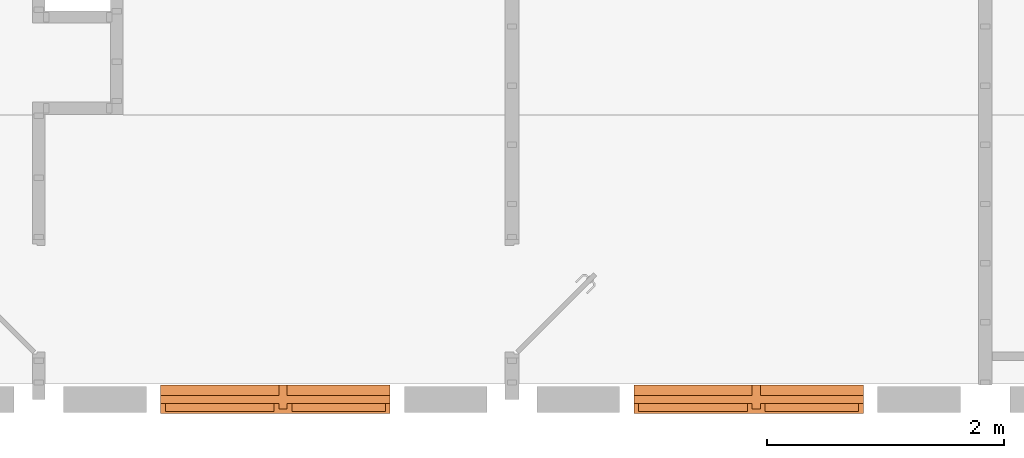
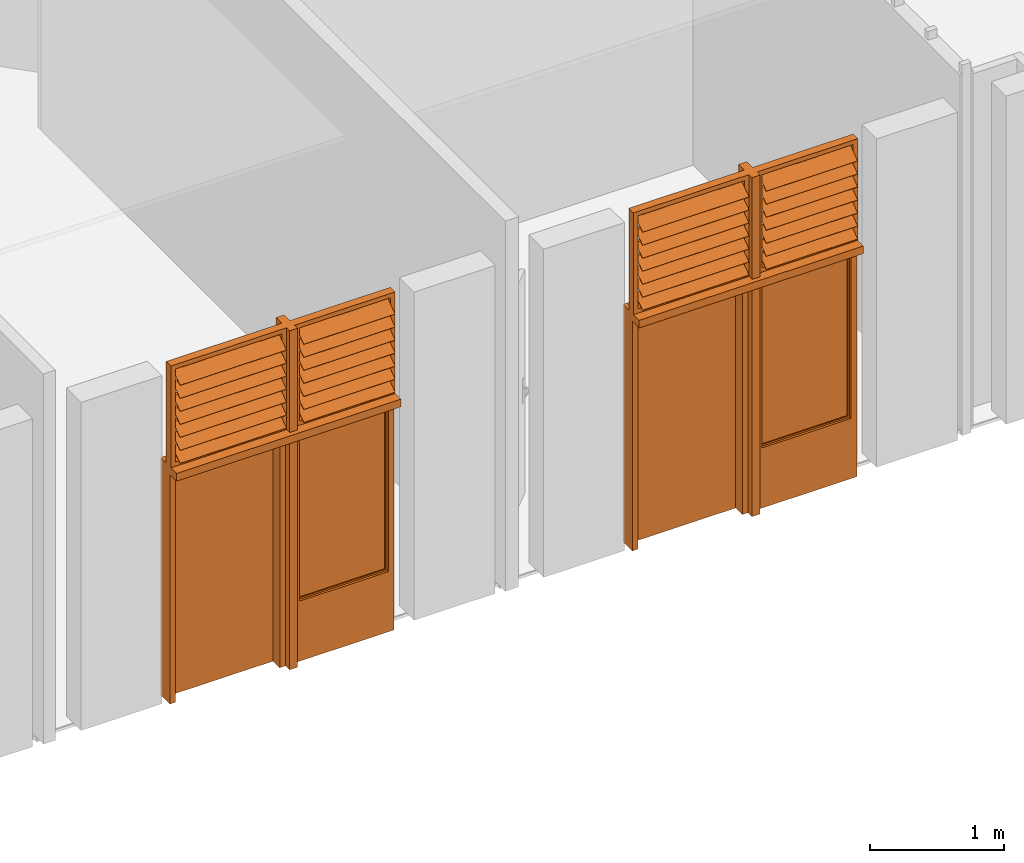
# One storey, part 17 of 20: 2 proxies.
"""IFC2X3 building model written with IfcOpenShell, lengths in metres."""

from ifc_helpers import new_model, entity, si_unit, converted_unit, derived_unit, direction, frame, origin, place, context, subcontext, project, spatial, faceted_brep, source, transform, mapped, material, material_list, type_object, type_shapes, element, save


model = new_model("IFC2X3")

# Units and contexts
model_context = context("Model", 3, precision=1e-05, world=origin(), true_north=direction((6.12303176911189e-17, 1.0)))
body_context = subcontext(model_context, "Body", "Model", "MODEL_VIEW")
ifc_project = project(units=[si_unit("LENGTHUNIT", "METRE"), si_unit("AREAUNIT", "SQUARE_METRE"), si_unit("VOLUMEUNIT", "CUBIC_METRE"), converted_unit("PLANEANGLEUNIT", "DEGREE", entity("IfcRatioMeasure", 0.0174532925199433), si_unit("PLANEANGLEUNIT", "RADIAN"), dimensions=[0, 0, 0, 0, 0, 0, 0]), si_unit("MASSUNIT", "GRAM", prefix="KILO"), derived_unit("MASSDENSITYUNIT", [(si_unit("MASSUNIT", "GRAM", prefix="KILO"), 1), (si_unit("LENGTHUNIT", "METRE"), -3)]), si_unit("TIMEUNIT", "SECOND"), si_unit("FREQUENCYUNIT", "HERTZ"), si_unit("THERMODYNAMICTEMPERATUREUNIT", "DEGREE_CELSIUS"), derived_unit("THERMALTRANSMITTANCEUNIT", [(si_unit("MASSUNIT", "GRAM", prefix="KILO"), 1), (si_unit("THERMODYNAMICTEMPERATUREUNIT", "KELVIN"), -1), (si_unit("TIMEUNIT", "SECOND"), -3)]), derived_unit("VOLUMETRICFLOWRATEUNIT", [(si_unit("LENGTHUNIT", "METRE"), 3), (si_unit("TIMEUNIT", "SECOND"), -1)]), si_unit("ELECTRICCURRENTUNIT", "AMPERE"), si_unit("ELECTRICVOLTAGEUNIT", "VOLT"), si_unit("POWERUNIT", "WATT"), si_unit("FORCEUNIT", "NEWTON", prefix="KILO"), si_unit("ILLUMINANCEUNIT", "LUX"), si_unit("LUMINOUSFLUXUNIT", "LUMEN"), si_unit("LUMINOUSINTENSITYUNIT", "CANDELA"), derived_unit("USERDEFINED", [(si_unit("MASSUNIT", "GRAM", prefix="KILO"), -1), (si_unit("LENGTHUNIT", "METRE"), -2), (si_unit("TIMEUNIT", "SECOND"), 3), (si_unit("LUMINOUSFLUXUNIT", "LUMEN"), 1)]), derived_unit("LINEARVELOCITYUNIT", [(si_unit("LENGTHUNIT", "METRE"), 1), (si_unit("TIMEUNIT", "SECOND"), -1)]), si_unit("PRESSUREUNIT", "PASCAL"), derived_unit("USERDEFINED", [(si_unit("LENGTHUNIT", "METRE"), -2), (si_unit("MASSUNIT", "GRAM", prefix="KILO"), 1), (si_unit("TIMEUNIT", "SECOND"), -2)])], contexts=[model_context])

# Site, building, storey
site_placement = place(None, origin())
site = spatial("IfcSite", under=ifc_project, at=site_placement, Name="Surface", CompositionType="ELEMENT")
building_placement = place(site_placement, origin())
building = spatial("IfcBuilding", under=site, at=building_placement, Name="ExPREF", CompositionType="ELEMENT")
storey_placement = place(building_placement, frame((0.0, 0.0, 4.27)))
storey = spatial("IfcBuildingStorey", under=building, at=storey_placement, Name="R+1", CompositionType="ELEMENT", Elevation=4.27)

# Proxies
ifc_material_1 = material(Name="AA-Aluminium")
ifc_material_2 = material(Name="AA-vitrage")
ifc_material_3 = material(Name="AA-bois menuiseries")
ifc_material_list_1 = material_list([ifc_material_1, ifc_material_2, ifc_material_3])
ifc_material_list_2 = material_list([ifc_material_1, ifc_material_2, ifc_material_3])
building_element_proxy_type = type_object("IfcBuildingElementProxyType", Name="R+2 porte + fenetre", PredefinedType="NOTDEFINED", material=ifc_material_list_2)
shared_shape = source(origin(), body_context, "Body", "Brep", [
    faceted_brep([(0.139999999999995, -0.113917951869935, 3.02140538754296), (0.139999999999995, -0.11833588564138, 3.02771485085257), (0.139999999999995, -0.101483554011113, 3.03951498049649), (0.139999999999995, -0.0970656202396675, 3.03320551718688), (0.930000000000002, -0.113917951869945, 3.02140538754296), (0.930000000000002, -0.0970656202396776, 3.03320551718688), (0.930000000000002, -0.101483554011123, 3.03951498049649), (0.930000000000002, -0.118335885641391, 3.02771485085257)], [[[0, 1, 2, 3]], [[4, 5, 6, 7]], [[3, 5, 4, 0]], [[2, 6, 5, 3]], [[1, 7, 6, 2]], [[0, 4, 7, 1]]]),
    faceted_brep([(0.139999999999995, -0.114720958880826, 3.02255220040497), (0.139999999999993, -0.220741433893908, 2.94831586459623), (0.139999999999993, -0.223609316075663, 2.95241162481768), (0.139999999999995, -0.117588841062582, 3.02664796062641), (0.930000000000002, -0.114720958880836, 3.02255220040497), (0.930000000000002, -0.117588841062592, 3.02664796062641), (0.93, -0.223609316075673, 2.95241162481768), (0.93, -0.220741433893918, 2.94831586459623)], [[[0, 1, 2, 3]], [[4, 5, 6, 7]], [[3, 5, 4, 0]], [[2, 6, 5, 3]], [[1, 7, 6, 2]], [[0, 4, 7, 1]]]),
    faceted_brep([(-0.930000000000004, -0.113917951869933, 3.02140538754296), (-0.930000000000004, -0.118335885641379, 3.02771485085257), (-0.930000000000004, -0.101483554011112, 3.03951498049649), (-0.930000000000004, -0.097065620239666, 3.03320551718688), (-0.00999999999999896, -0.113917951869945, 3.02140538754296), (-0.00999999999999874, -0.0970656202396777, 3.03320551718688), (-0.0099999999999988, -0.101483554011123, 3.03951498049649), (-0.00999999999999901, -0.118335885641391, 3.02771485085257)], [[[0, 1, 2, 3]], [[4, 5, 6, 7]], [[3, 5, 4, 0]], [[2, 6, 5, 3]], [[1, 7, 6, 2]], [[0, 4, 7, 1]]]),
    faceted_brep([(-0.930000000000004, -0.114720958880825, 3.02255220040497), (-0.930000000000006, -0.220741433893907, 2.94831586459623), (-0.930000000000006, -0.223609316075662, 2.95241162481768), (-0.930000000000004, -0.11758884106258, 3.02664796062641), (-0.00999999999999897, -0.114720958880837, 3.02255220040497), (-0.009999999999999, -0.117588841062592, 3.02664796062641), (-0.0100000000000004, -0.223609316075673, 2.95241162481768), (-0.0100000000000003, -0.220741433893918, 2.94831586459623)], [[[0, 1, 2, 3]], [[4, 5, 6, 7]], [[3, 5, 4, 0]], [[2, 6, 5, 3]], [[1, 7, 6, 2]], [[0, 4, 7, 1]]]),
    faceted_brep([(0.139999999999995, -0.113917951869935, 2.90240538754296), (0.139999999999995, -0.11833588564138, 2.90871485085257), (0.139999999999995, -0.101483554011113, 2.92051498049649), (0.139999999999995, -0.0970656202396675, 2.91420551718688), (0.930000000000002, -0.113917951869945, 2.90240538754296), (0.930000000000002, -0.0970656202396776, 2.91420551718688), (0.930000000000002, -0.101483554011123, 2.92051498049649), (0.930000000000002, -0.118335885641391, 2.90871485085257)], [[[0, 1, 2, 3]], [[4, 5, 6, 7]], [[3, 5, 4, 0]], [[2, 6, 5, 3]], [[1, 7, 6, 2]], [[0, 4, 7, 1]]]),
    faceted_brep([(0.139999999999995, -0.114720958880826, 2.90355220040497), (0.139999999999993, -0.220741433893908, 2.82931586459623), (0.139999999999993, -0.223609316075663, 2.83341162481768), (0.139999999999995, -0.117588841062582, 2.90764796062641), (0.930000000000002, -0.114720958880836, 2.90355220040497), (0.930000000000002, -0.117588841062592, 2.90764796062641), (0.93, -0.223609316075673, 2.83341162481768), (0.93, -0.220741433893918, 2.82931586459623)], [[[0, 1, 2, 3]], [[4, 5, 6, 7]], [[3, 5, 4, 0]], [[2, 6, 5, 3]], [[1, 7, 6, 2]], [[0, 4, 7, 1]]]),
    faceted_brep([(-0.930000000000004, -0.113917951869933, 2.90240538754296), (-0.930000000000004, -0.118335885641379, 2.90871485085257), (-0.930000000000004, -0.101483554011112, 2.92051498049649), (-0.930000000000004, -0.097065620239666, 2.91420551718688), (-0.00999999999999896, -0.113917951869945, 2.90240538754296), (-0.00999999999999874, -0.0970656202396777, 2.91420551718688), (-0.0099999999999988, -0.101483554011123, 2.92051498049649), (-0.00999999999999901, -0.118335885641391, 2.90871485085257)], [[[0, 1, 2, 3]], [[4, 5, 6, 7]], [[3, 5, 4, 0]], [[2, 6, 5, 3]], [[1, 7, 6, 2]], [[0, 4, 7, 1]]]),
    faceted_brep([(-0.930000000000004, -0.114720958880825, 2.90355220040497), (-0.930000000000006, -0.220741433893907, 2.82931586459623), (-0.930000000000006, -0.223609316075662, 2.83341162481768), (-0.930000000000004, -0.11758884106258, 2.90764796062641), (-0.00999999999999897, -0.114720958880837, 2.90355220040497), (-0.009999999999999, -0.117588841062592, 2.90764796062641), (-0.0100000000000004, -0.223609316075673, 2.83341162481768), (-0.0100000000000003, -0.220741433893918, 2.82931586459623)], [[[0, 1, 2, 3]], [[4, 5, 6, 7]], [[3, 5, 4, 0]], [[2, 6, 5, 3]], [[1, 7, 6, 2]], [[0, 4, 7, 1]]]),
    faceted_brep([(0.139999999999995, -0.113917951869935, 2.78340538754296), (0.139999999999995, -0.11833588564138, 2.78971485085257), (0.139999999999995, -0.101483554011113, 2.80151498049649), (0.139999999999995, -0.0970656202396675, 2.79520551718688), (0.930000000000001, -0.113917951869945, 2.78340538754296), (0.930000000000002, -0.0970656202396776, 2.79520551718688), (0.930000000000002, -0.101483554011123, 2.80151498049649), (0.930000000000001, -0.118335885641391, 2.78971485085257)], [[[0, 1, 2, 3]], [[4, 5, 6, 7]], [[3, 5, 4, 0]], [[2, 6, 5, 3]], [[1, 7, 6, 2]], [[0, 4, 7, 1]]]),
    faceted_brep([(0.139999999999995, -0.114720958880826, 2.78455220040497), (0.139999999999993, -0.220741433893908, 2.71031586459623), (0.139999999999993, -0.223609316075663, 2.71441162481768), (0.139999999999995, -0.117588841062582, 2.78864796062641), (0.930000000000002, -0.114720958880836, 2.78455220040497), (0.930000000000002, -0.117588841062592, 2.78864796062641), (0.93, -0.223609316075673, 2.71441162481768), (0.93, -0.220741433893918, 2.71031586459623)], [[[0, 1, 2, 3]], [[4, 5, 6, 7]], [[3, 5, 4, 0]], [[2, 6, 5, 3]], [[1, 7, 6, 2]], [[0, 4, 7, 1]]]),
    faceted_brep([(-0.930000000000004, -0.113917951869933, 2.78340538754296), (-0.930000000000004, -0.118335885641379, 2.78971485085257), (-0.930000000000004, -0.101483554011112, 2.80151498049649), (-0.930000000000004, -0.097065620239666, 2.79520551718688), (-0.00999999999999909, -0.113917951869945, 2.78340538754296), (-0.00999999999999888, -0.0970656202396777, 2.79520551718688), (-0.00999999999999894, -0.101483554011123, 2.80151498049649), (-0.00999999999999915, -0.118335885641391, 2.78971485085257)], [[[0, 1, 2, 3]], [[4, 5, 6, 7]], [[3, 5, 4, 0]], [[2, 6, 5, 3]], [[1, 7, 6, 2]], [[0, 4, 7, 1]]]),
    faceted_brep([(-0.930000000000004, -0.114720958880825, 2.78455220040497), (-0.930000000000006, -0.220741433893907, 2.71031586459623), (-0.930000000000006, -0.223609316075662, 2.71441162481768), (-0.930000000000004, -0.11758884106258, 2.78864796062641), (-0.0099999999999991, -0.114720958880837, 2.78455220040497), (-0.00999999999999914, -0.117588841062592, 2.78864796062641), (-0.0100000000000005, -0.223609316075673, 2.71441162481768), (-0.0100000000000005, -0.220741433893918, 2.71031586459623)], [[[0, 1, 2, 3]], [[4, 5, 6, 7]], [[3, 5, 4, 0]], [[2, 6, 5, 3]], [[1, 7, 6, 2]], [[0, 4, 7, 1]]]),
    faceted_brep([(-0.930000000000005, -0.113917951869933, 2.66440538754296), (-0.930000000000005, -0.118335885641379, 2.67071485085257), (-0.930000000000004, -0.101483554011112, 2.68251498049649), (-0.930000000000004, -0.097065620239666, 2.67620551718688), (-0.00999999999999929, -0.113917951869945, 2.66440538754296), (-0.00999999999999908, -0.0970656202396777, 2.67620551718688), (-0.00999999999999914, -0.101483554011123, 2.68251498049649), (-0.00999999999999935, -0.118335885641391, 2.67071485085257)], [[[0, 1, 2, 3]], [[4, 5, 6, 7]], [[3, 5, 4, 0]], [[2, 6, 5, 3]], [[1, 7, 6, 2]], [[0, 4, 7, 1]]]),
    faceted_brep([(-0.930000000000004, -0.114720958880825, 2.66555220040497), (-0.930000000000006, -0.220741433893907, 2.59131586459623), (-0.930000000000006, -0.223609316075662, 2.59541162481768), (-0.930000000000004, -0.11758884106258, 2.66964796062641), (-0.0099999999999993, -0.114720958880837, 2.66555220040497), (-0.00999999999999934, -0.117588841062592, 2.66964796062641), (-0.0100000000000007, -0.223609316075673, 2.59541162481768), (-0.0100000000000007, -0.220741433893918, 2.59131586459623)], [[[0, 1, 2, 3]], [[4, 5, 6, 7]], [[3, 5, 4, 0]], [[2, 6, 5, 3]], [[1, 7, 6, 2]], [[0, 4, 7, 1]]]),
    faceted_brep([(-0.930000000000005, -0.113917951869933, 2.54540538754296), (-0.930000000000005, -0.118335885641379, 2.55171485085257), (-0.930000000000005, -0.101483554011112, 2.56351498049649), (-0.930000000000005, -0.097065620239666, 2.55720551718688), (-0.0099999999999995, -0.113917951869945, 2.54540538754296), (-0.00999999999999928, -0.0970656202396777, 2.55720551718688), (-0.00999999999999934, -0.101483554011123, 2.56351498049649), (-0.00999999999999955, -0.118335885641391, 2.55171485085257)], [[[0, 1, 2, 3]], [[4, 5, 6, 7]], [[3, 5, 4, 0]], [[2, 6, 5, 3]], [[1, 7, 6, 2]], [[0, 4, 7, 1]]]),
    faceted_brep([(-0.930000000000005, -0.114720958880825, 2.54655220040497), (-0.930000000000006, -0.220741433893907, 2.47231586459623), (-0.930000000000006, -0.223609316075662, 2.47641162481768), (-0.930000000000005, -0.11758884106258, 2.55064796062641), (-0.00999999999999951, -0.114720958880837, 2.54655220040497), (-0.00999999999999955, -0.117588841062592, 2.55064796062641), (-0.0100000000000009, -0.223609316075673, 2.47641162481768), (-0.0100000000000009, -0.220741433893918, 2.47231586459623)], [[[0, 1, 2, 3]], [[4, 5, 6, 7]], [[3, 5, 4, 0]], [[2, 6, 5, 3]], [[1, 7, 6, 2]], [[0, 4, 7, 1]]]),
    faceted_brep([(0.139999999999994, -0.113917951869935, 2.66440538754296), (0.139999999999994, -0.11833588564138, 2.67071485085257), (0.139999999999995, -0.101483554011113, 2.68251498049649), (0.139999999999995, -0.0970656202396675, 2.67620551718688), (0.930000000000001, -0.113917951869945, 2.66440538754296), (0.930000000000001, -0.0970656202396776, 2.67620551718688), (0.930000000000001, -0.101483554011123, 2.68251498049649), (0.930000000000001, -0.118335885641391, 2.67071485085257)], [[[0, 1, 2, 3]], [[4, 5, 6, 7]], [[3, 5, 4, 0]], [[2, 6, 5, 3]], [[1, 7, 6, 2]], [[0, 4, 7, 1]]]),
    faceted_brep([(0.139999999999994, -0.114720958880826, 2.66555220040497), (0.139999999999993, -0.220741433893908, 2.59131586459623), (0.139999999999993, -0.223609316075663, 2.59541162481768), (0.139999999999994, -0.117588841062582, 2.66964796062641), (0.930000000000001, -0.114720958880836, 2.66555220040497), (0.930000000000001, -0.117588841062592, 2.66964796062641), (0.93, -0.223609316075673, 2.59541162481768), (0.93, -0.220741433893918, 2.59131586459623)], [[[0, 1, 2, 3]], [[4, 5, 6, 7]], [[3, 5, 4, 0]], [[2, 6, 5, 3]], [[1, 7, 6, 2]], [[0, 4, 7, 1]]]),
    faceted_brep([(0.139999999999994, -0.113917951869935, 2.54540538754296), (0.139999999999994, -0.11833588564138, 2.55171485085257), (0.139999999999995, -0.101483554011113, 2.56351498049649), (0.139999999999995, -0.0970656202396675, 2.55720551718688), (0.930000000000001, -0.113917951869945, 2.54540538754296), (0.930000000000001, -0.0970656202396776, 2.55720551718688), (0.930000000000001, -0.101483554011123, 2.56351498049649), (0.930000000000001, -0.118335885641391, 2.55171485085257)], [[[0, 1, 2, 3]], [[4, 5, 6, 7]], [[3, 5, 4, 0]], [[2, 6, 5, 3]], [[1, 7, 6, 2]], [[0, 4, 7, 1]]]),
    faceted_brep([(0.139999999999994, -0.114720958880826, 2.54655220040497), (0.139999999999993, -0.220741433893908, 2.47231586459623), (0.139999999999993, -0.223609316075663, 2.47641162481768), (0.139999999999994, -0.117588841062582, 2.55064796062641), (0.930000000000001, -0.114720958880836, 2.54655220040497), (0.930000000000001, -0.117588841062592, 2.55064796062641), (0.93, -0.223609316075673, 2.47641162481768), (0.93, -0.220741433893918, 2.47231586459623)], [[[0, 1, 2, 3]], [[4, 5, 6, 7]], [[3, 5, 4, 0]], [[2, 6, 5, 3]], [[1, 7, 6, 2]], [[0, 4, 7, 1]]]),
    faceted_brep([(0.139999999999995, -0.113917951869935, 2.42640538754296), (0.139999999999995, -0.11833588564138, 2.43271485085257), (0.139999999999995, -0.101483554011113, 2.44451498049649), (0.139999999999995, -0.0970656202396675, 2.43820551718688), (0.930000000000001, -0.113917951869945, 2.42640538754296), (0.930000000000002, -0.0970656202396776, 2.43820551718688), (0.930000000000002, -0.101483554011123, 2.44451498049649), (0.930000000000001, -0.118335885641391, 2.43271485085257)], [[[0, 1, 2, 3]], [[4, 5, 6, 7]], [[3, 5, 4, 0]], [[2, 6, 5, 3]], [[1, 7, 6, 2]], [[0, 4, 7, 1]]]),
    faceted_brep([(0.139999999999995, -0.114720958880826, 2.42755220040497), (0.139999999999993, -0.220741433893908, 2.35331586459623), (0.139999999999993, -0.223609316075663, 2.35741162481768), (0.139999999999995, -0.117588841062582, 2.43164796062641), (0.930000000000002, -0.114720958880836, 2.42755220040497), (0.930000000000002, -0.117588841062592, 2.43164796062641), (0.93, -0.223609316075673, 2.35741162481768), (0.93, -0.220741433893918, 2.35331586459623)], [[[0, 1, 2, 3]], [[4, 5, 6, 7]], [[3, 5, 4, 0]], [[2, 6, 5, 3]], [[1, 7, 6, 2]], [[0, 4, 7, 1]]]),
    faceted_brep([(0.139999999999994, -0.113917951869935, 2.30740538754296), (0.139999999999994, -0.11833588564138, 2.31371485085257), (0.139999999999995, -0.101483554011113, 2.32551498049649), (0.139999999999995, -0.0970656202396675, 2.31920551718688), (0.930000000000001, -0.113917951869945, 2.30740538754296), (0.930000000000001, -0.0970656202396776, 2.31920551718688), (0.930000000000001, -0.101483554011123, 2.32551498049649), (0.930000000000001, -0.118335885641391, 2.31371485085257)], [[[0, 1, 2, 3]], [[4, 5, 6, 7]], [[3, 5, 4, 0]], [[2, 6, 5, 3]], [[1, 7, 6, 2]], [[0, 4, 7, 1]]]),
    faceted_brep([(0.139999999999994, -0.114720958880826, 2.30855220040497), (0.139999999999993, -0.220741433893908, 2.23431586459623), (0.139999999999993, -0.223609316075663, 2.23841162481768), (0.139999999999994, -0.117588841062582, 2.31264796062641), (0.930000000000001, -0.114720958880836, 2.30855220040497), (0.930000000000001, -0.117588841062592, 2.31264796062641), (0.93, -0.223609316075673, 2.23841162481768), (0.93, -0.220741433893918, 2.23431586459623)], [[[0, 1, 2, 3]], [[4, 5, 6, 7]], [[3, 5, 4, 0]], [[2, 6, 5, 3]], [[1, 7, 6, 2]], [[0, 4, 7, 1]]]),
    faceted_brep([(-0.930000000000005, -0.113917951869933, 2.42640538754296), (-0.930000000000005, -0.118335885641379, 2.43271485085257), (-0.930000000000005, -0.101483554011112, 2.44451498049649), (-0.930000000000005, -0.097065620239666, 2.43820551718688), (-0.0099999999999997, -0.113917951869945, 2.42640538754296), (-0.00999999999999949, -0.0970656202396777, 2.43820551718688), (-0.00999999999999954, -0.101483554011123, 2.44451498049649), (-0.00999999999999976, -0.118335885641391, 2.43271485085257)], [[[0, 1, 2, 3]], [[4, 5, 6, 7]], [[3, 5, 4, 0]], [[2, 6, 5, 3]], [[1, 7, 6, 2]], [[0, 4, 7, 1]]]),
    faceted_brep([(-0.930000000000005, -0.114720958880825, 2.42755220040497), (-0.930000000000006, -0.220741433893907, 2.35331586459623), (-0.930000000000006, -0.223609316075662, 2.35741162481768), (-0.930000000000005, -0.11758884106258, 2.43164796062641), (-0.00999999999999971, -0.114720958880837, 2.42755220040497), (-0.00999999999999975, -0.117588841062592, 2.43164796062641), (-0.0100000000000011, -0.223609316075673, 2.35741162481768), (-0.0100000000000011, -0.220741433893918, 2.35331586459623)], [[[0, 1, 2, 3]], [[4, 5, 6, 7]], [[3, 5, 4, 0]], [[2, 6, 5, 3]], [[1, 7, 6, 2]], [[0, 4, 7, 1]]]),
    faceted_brep([(-0.930000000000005, -0.113917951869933, 2.30740538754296), (-0.930000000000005, -0.118335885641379, 2.31371485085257), (-0.930000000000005, -0.101483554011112, 2.32551498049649), (-0.930000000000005, -0.097065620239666, 2.31920551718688), (-0.0099999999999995, -0.113917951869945, 2.30740538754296), (-0.00999999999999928, -0.0970656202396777, 2.31920551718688), (-0.00999999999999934, -0.101483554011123, 2.32551498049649), (-0.00999999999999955, -0.118335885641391, 2.31371485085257)], [[[0, 1, 2, 3]], [[4, 5, 6, 7]], [[3, 5, 4, 0]], [[2, 6, 5, 3]], [[1, 7, 6, 2]], [[0, 4, 7, 1]]]),
    faceted_brep([(-0.930000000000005, -0.114720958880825, 2.30855220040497), (-0.930000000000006, -0.220741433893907, 2.23431586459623), (-0.930000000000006, -0.223609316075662, 2.23841162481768), (-0.930000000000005, -0.11758884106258, 2.31264796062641), (-0.00999999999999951, -0.114720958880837, 2.30855220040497), (-0.00999999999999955, -0.117588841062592, 2.31264796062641), (-0.0100000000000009, -0.223609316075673, 2.23841162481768), (-0.0100000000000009, -0.220741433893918, 2.23431586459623)], [[[0, 1, 2, 3]], [[4, 5, 6, 7]], [[3, 5, 4, 0]], [[2, 6, 5, 3]], [[1, 7, 6, 2]], [[0, 4, 7, 1]]]),
    faceted_brep([(0.904999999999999, -0.0900000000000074, 2.03499999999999), (0.904999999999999, -0.0900000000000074, 0.564999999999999), (0.164999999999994, -0.0900000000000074, 0.564999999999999), (0.164999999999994, -0.0900000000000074, 2.03499999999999), (0.904999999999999, -0.110000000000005, 2.03499999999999), (0.164999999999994, -0.110000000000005, 2.03499999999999), (0.164999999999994, -0.110000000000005, 0.564999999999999), (0.904999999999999, -0.110000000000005, 0.564999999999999)], [[[0, 1, 2, 3]], [[4, 5, 6, 7]], [[0, 3, 5, 4]], [[3, 2, 6, 5]], [[2, 1, 7, 6]], [[1, 0, 4, 7]]]),
    faceted_brep([(0.934999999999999, -0.0800000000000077, 2.065), (0.934999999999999, -0.120000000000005, 2.065), (0.934999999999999, -0.120000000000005, 0.534999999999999), (0.934999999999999, -0.0800000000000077, 0.534999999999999), (0.904999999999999, -0.120000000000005, 2.03499999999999), (0.904999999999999, -0.0800000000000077, 2.03499999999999), (0.904999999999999, -0.0800000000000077, 0.564999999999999), (0.904999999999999, -0.120000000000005, 0.564999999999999), (0.134999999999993, -0.120000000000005, 0.534999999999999), (0.134999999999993, -0.0800000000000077, 0.534999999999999), (0.164999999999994, -0.0800000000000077, 0.564999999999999), (0.164999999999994, -0.120000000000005, 0.564999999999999), (0.134999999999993, -0.120000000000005, 2.065), (0.134999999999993, -0.0800000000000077, 2.065), (0.164999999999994, -0.0800000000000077, 2.03499999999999), (0.164999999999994, -0.120000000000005, 2.03499999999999)], [[[0, 1, 2, 3]], [[4, 5, 6, 7]], [[3, 2, 8, 9]], [[7, 6, 10, 11]], [[9, 8, 12, 13]], [[11, 10, 14, 15]], [[7, 11, 15, 4], [1, 12, 8, 2]], [[13, 12, 1, 0]], [[3, 9, 13, 0], [5, 14, 10, 6]], [[15, 14, 5, 4]]], outer=[[True], [True], [True], [True], [True], [True], [False, True], [True], [True, False], [True]]),
    faceted_brep([(0.969999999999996, -0.140000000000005, 0.500000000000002), (0.969999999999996, -0.080000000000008, 0.500000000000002), (0.969999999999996, -0.080000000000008, 2.09999999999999), (0.969999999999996, -0.140000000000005, 2.09999999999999), (0.919999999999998, -0.120000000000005, 0.549999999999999), (0.919999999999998, -0.140000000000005, 0.549999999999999), (0.919999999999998, -0.140000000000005, 2.05), (0.919999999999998, -0.120000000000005, 2.05), (0.934999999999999, -0.0800000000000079, 0.534999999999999), (0.934999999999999, -0.120000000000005, 0.534999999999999), (0.934999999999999, -0.120000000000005, 2.065), (0.934999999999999, -0.0800000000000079, 2.065), (0.0999999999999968, -0.080000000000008, 2.09999999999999), (0.099999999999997, -0.140000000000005, 2.09999999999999), (0.149999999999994, -0.140000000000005, 2.04999999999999), (0.149999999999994, -0.120000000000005, 2.05), (0.134999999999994, -0.120000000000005, 2.065), (0.134999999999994, -0.0800000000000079, 2.065), (0.0999999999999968, -0.080000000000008, 0.500000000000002), (0.099999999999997, -0.140000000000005, 0.500000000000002), (0.149999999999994, -0.140000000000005, 0.549999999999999), (0.149999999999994, -0.120000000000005, 0.549999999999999), (0.134999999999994, -0.120000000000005, 0.534999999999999), (0.134999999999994, -0.0800000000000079, 0.534999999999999)], [[[0, 1, 2, 3]], [[4, 5, 6, 7]], [[8, 9, 10, 11]], [[3, 2, 12, 13]], [[7, 6, 14, 15]], [[11, 10, 16, 17]], [[13, 12, 18, 19]], [[15, 14, 20, 21]], [[17, 16, 22, 23]], [[11, 17, 23, 8], [1, 18, 12, 2]], [[19, 18, 1, 0]], [[3, 13, 19, 0], [5, 20, 14, 6]], [[21, 20, 5, 4]], [[7, 15, 21, 4], [9, 22, 16, 10]], [[23, 22, 9, 8]]], outer=[[True], [True], [True], [True], [True], [True], [True], [True], [True], [False, True], [True], [True, False], [True], [False, True], [True]]),
    faceted_brep([(-0.97, -0.155, 2.17), (0.0299999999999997, -0.155, 2.17), (0.0299999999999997, -0.155, 3.10000000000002), (-0.97, -0.155, 3.10000000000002), (-0.930000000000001, -0.155, 2.21), (-0.930000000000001, -0.155, 3.06000000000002), (-0.0100000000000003, -0.155, 3.06000000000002), (-0.0100000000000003, -0.155, 2.21), (-0.930000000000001, -0.085000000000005, 2.21), (-0.0100000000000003, -0.085000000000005, 2.21), (-0.0100000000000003, -0.085000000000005, 3.06000000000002), (-0.930000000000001, -0.085000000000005, 3.06000000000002), (-0.97, -0.085000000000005, 2.17), (-0.97, -0.085000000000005, 3.10000000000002), (0.0299999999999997, -0.085000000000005, 3.10000000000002), (0.0299999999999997, -0.085000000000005, 2.17)], [[[0, 1, 2, 3], [4, 5, 6, 7]], [[8, 9, 10, 11], [12, 13, 14, 15]], [[1, 0, 12, 15]], [[4, 7, 9, 8]], [[0, 3, 13, 12]], [[5, 4, 8, 11]], [[2, 1, 15, 14]], [[7, 6, 10, 9]], [[3, 2, 14, 13]], [[6, 5, 11, 10]]], outer=[[True, False], [False, True], [True], [True], [True], [True], [True], [True], [True], [True]]),
    faceted_brep([(0.0999999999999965, -0.155, 2.16999999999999), (0.970000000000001, -0.155, 2.16999999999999), (0.970000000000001, -0.155, 3.10000000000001), (0.0999999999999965, -0.155, 3.10000000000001), (0.139999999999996, -0.155, 2.20999999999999), (0.139999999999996, -0.155, 3.06000000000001), (0.930000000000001, -0.155, 3.06000000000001), (0.930000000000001, -0.155, 2.20999999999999), (0.139999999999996, -0.085000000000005, 2.20999999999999), (0.930000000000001, -0.085000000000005, 2.20999999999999), (0.930000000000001, -0.085000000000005, 3.06000000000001), (0.139999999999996, -0.085000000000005, 3.06000000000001), (0.0999999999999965, -0.085000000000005, 2.16999999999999), (0.0999999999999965, -0.085000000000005, 3.10000000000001), (0.970000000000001, -0.085000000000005, 3.10000000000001), (0.970000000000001, -0.085000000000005, 2.16999999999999)], [[[0, 1, 2, 3], [4, 5, 6, 7]], [[8, 9, 10, 11], [12, 13, 14, 15]], [[1, 0, 12, 15]], [[2, 1, 15, 14]], [[7, 6, 10, 9]], [[4, 7, 9, 8]], [[0, 3, 13, 12]], [[5, 4, 8, 11]], [[3, 2, 14, 13]], [[6, 5, 11, 10]]], outer=[[True, False], [False, True], [True], [True], [True], [True], [True], [True], [True], [True]]),
    faceted_brep([(0.0999999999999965, -0.2, 3.10000000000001), (0.0299999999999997, -0.2, 3.10000000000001), (0.0299999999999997, -0.2, 2.17), (0.0999999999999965, -0.2, 2.17), (0.0999999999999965, 0.0, 3.10000000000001), (0.0299999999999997, 0.0, 3.10000000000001), (0.0999999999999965, 0.0, 2.17), (0.0299999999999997, 0.0, 2.17)], [[[0, 1, 2, 3]], [[1, 0, 4, 5]], [[0, 3, 6, 4]], [[2, 1, 5, 7]], [[3, 2, 7, 6]], [[4, 6, 7, 5]]]),
    faceted_brep([(0.0299999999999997, 0.0, 2.1), (0.0999999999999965, 0.0, 2.1), (0.0999999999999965, 0.0, 0.0), (0.0299999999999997, 0.0, 0.0), (0.0299999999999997, -0.2, 0.0), (0.0299999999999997, -0.2, 2.1), (0.0999999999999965, -0.2, 0.0), (0.0999999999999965, -0.2, 2.1)], [[[0, 1, 2, 3]], [[4, 5, 0, 3]], [[6, 4, 3, 2]], [[7, 6, 2, 1]], [[5, 7, 1, 0]], [[5, 4, 6, 7]]]),
    faceted_brep([(-0.0050000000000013, 0.0, 2.065), (-0.935000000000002, 0.0, 2.065), (-0.935000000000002, -0.0400000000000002, 2.065), (-0.0050000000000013, -0.0400000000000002, 2.065), (-0.0050000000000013, 0.0, 0.0), (-0.0050000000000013, -0.0400000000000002, 0.0), (-0.935000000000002, -0.0400000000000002, 0.0), (-0.935000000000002, 0.0, 0.0)], [[[0, 1, 2, 3]], [[4, 5, 6, 7]], [[1, 0, 4, 7]], [[2, 1, 7, 6]], [[3, 2, 6, 5]], [[0, 3, 5, 4]]]),
    faceted_brep([(-0.970000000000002, -0.14, 0.0), (-0.970000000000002, 0.0, 0.0), (-0.935000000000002, 0.0, 0.0), (-0.935000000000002, -0.0400000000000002, 0.0), (-0.920000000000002, -0.0400000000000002, 0.0), (-0.920000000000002, -0.14, 0.0), (-0.969999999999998, -0.14, 2.1), (-0.969999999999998, 0.0, 2.1), (0.0300000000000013, 0.0, 2.1), (0.0299999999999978, 0.0, 0.0), (-0.00500000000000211, 0.0, 0.0), (-0.00499999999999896, 0.0, 2.065), (-0.934999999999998, 0.0, 2.065), (-0.934999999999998, -0.0400000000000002, 2.065), (-0.919999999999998, -0.14, 2.05), (-0.0199999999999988, -0.140000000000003, 2.05), (-0.0200000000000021, -0.140000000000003, 0.0), (0.0299999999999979, -0.140000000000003, 0.0), (0.0300000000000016, -0.14, 2.1), (-0.004999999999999, -0.0400000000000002, 2.065), (-0.0200000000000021, -0.0400000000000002, 0.0), (-0.00500000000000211, -0.0400000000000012, 0.0), (-0.0199999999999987, -0.0400000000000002, 2.05), (-0.919999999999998, -0.0400000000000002, 2.05)], [[[0, 1, 2, 3, 4, 5]], [[1, 0, 6, 7]], [[2, 1, 7, 8, 9, 10, 11, 12]], [[3, 2, 12, 13]], [[0, 5, 14, 15, 16, 17, 18, 6]], [[7, 6, 18, 8]], [[13, 12, 11, 19]], [[17, 16, 20, 21, 10, 9]], [[4, 3, 13, 19, 21, 20, 22, 23]], [[5, 4, 23, 14]], [[14, 23, 22, 15]], [[8, 18, 17, 9]], [[19, 11, 10, 21]], [[15, 22, 20, 16]]]),
    faceted_brep([(0.970000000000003, -0.140000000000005, 0.0), (0.970000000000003, -0.140000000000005, 0.500000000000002), (0.0999999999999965, -0.140000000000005, 0.500000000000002), (0.0999999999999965, -0.140000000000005, 0.0), (0.970000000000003, 0.0, 0.0), (0.0999999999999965, 0.0, 0.0), (0.0999999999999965, 0.0, 0.500000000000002), (0.970000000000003, 0.0, 0.500000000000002)], [[[0, 1, 2, 3]], [[4, 5, 6, 7]], [[1, 0, 4, 7]], [[2, 1, 7, 6]], [[3, 2, 6, 5]], [[0, 3, 5, 4]]]),
    faceted_brep([(0.97, -0.24, 2.09999999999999), (0.97, -0.24, 2.16999999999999), (-0.970000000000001, -0.24, 2.17), (-0.97, -0.24, 2.1), (0.97, 0.0, 2.09999999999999), (-0.97, 0.0, 2.1), (-0.97, 0.0, 2.17), (0.970000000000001, 0.0, 2.16999999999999)], [[[0, 1, 2, 3]], [[4, 5, 6, 7]], [[1, 0, 4, 7]], [[3, 2, 6, 5]], [[0, 3, 5, 4]], [[2, 1, 7, 6]]]),
])
type_shapes(building_element_proxy_type, [shared_shape])
proxy_1_placement = place(storey_placement, frame((51.4897436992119, -193.239651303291, 0.0)))
element("IfcBuildingElementProxy", 1, at=proxy_1_placement, inside=storey, type_object=building_element_proxy_type, material=ifc_material_list_1, Name="R+1 porte + fenetre:R+2 porte + fenetre", ObjectType="R+2 porte + fenetre", context=body_context, shape_type="MappedRepresentation", body=[
    mapped(shared_shape, transform((0.0, 0.0, 0.0), scale=1.0)),
])
ifc_material_list_3 = material_list([ifc_material_1, ifc_material_2, ifc_material_3])
proxy_2_placement = place(storey_placement, frame((55.4897436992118, -193.239651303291, 0.0)))
element("IfcBuildingElementProxy", 2, at=proxy_2_placement, inside=storey, type_object=building_element_proxy_type, material=ifc_material_list_3, Name="R+1 porte + fenetre:R+2 porte + fenetre", ObjectType="R+2 porte + fenetre", context=body_context, shape_type="MappedRepresentation", body=[
    mapped(shared_shape, transform((0.0, 0.0, 0.0), scale=1.0)),
])

save(model, "model.ifc")
